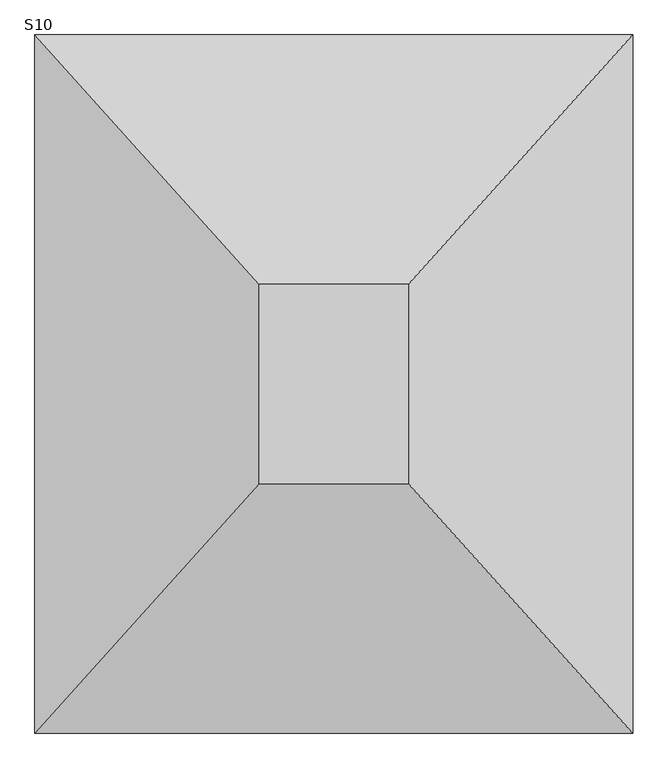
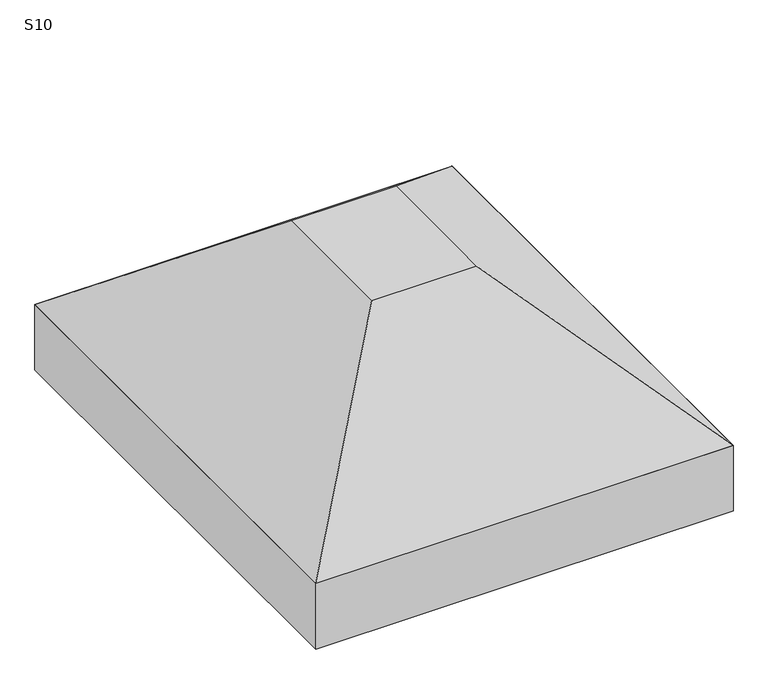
"""IFC4 building model written with IfcOpenShell, lengths in millimetres: fastener geometry, TQS - Sapata : S10."""

from ifc_helpers import new_model, si_unit, frame, origin, place, context, project, spatial, polyline, outline, extrude, faceted_brep, source, transform, mapped, element, save


def s10_aef5c9fc(model_context):
    return source(origin(), model_context, "Body", "SolidModel", [
        faceted_brep([(-50.0, 0.0, 0.0), (-350.0, 0.0, 0.0), (-350.0, -400.0, 0.0), (-50.0, -400.0, 0.0), (400.0, 500.0, -400.0), (400.0, -900.0, -400.0), (-800.0, -900.0, -400.0), (-800.0, 500.0, -400.0)], [[[0, 1, 2, 3]], [[4, 5, 6, 7]], [[4, 7, 1, 0]], [[7, 6, 2, 1]], [[6, 5, 3, 2]], [[5, 4, 0, 3]]]),
        extrude(outline(polyline([(400.0, 500.0), (400.0, -900.0), (-800.0, -900.0), (-800.0, 500.0), (400.0, 500.0)])), frame((0.0, 0.0, -600.0), z_axis=(0.0, 0.0, 1.0), x_axis=(1.0, 0.0, 0.0)), (0.0, 0.0, 1.0), 200.0),
    ])


if __name__ == "__main__":
    model = new_model("IFC4")
    model_context = context("Model", 3, world=origin())
    ifc_project = project(units=[si_unit("LENGTHUNIT", "METRE", prefix="MILLI")], contexts=[model_context])
    site = spatial("IfcSite", under=ifc_project)
    building = spatial("IfcBuilding", under=site)
    placement = place(None, origin())
    s10_shape = s10_aef5c9fc(model_context)
    element("IfcFastener", 1, ObjectType="TQS - Sapata : S10", at=placement, inside=building, context=model_context, shape_type="MappedRepresentation", body=[
        mapped(s10_shape, transform((0.0, 0.0, 0.0), x_axis=(1.0, 0.0, 0.0), y_axis=(0.0, 1.0, 0.0), z_axis=(0.0, 0.0, 1.0))),
    ])
    save(model, "model.ifc")
